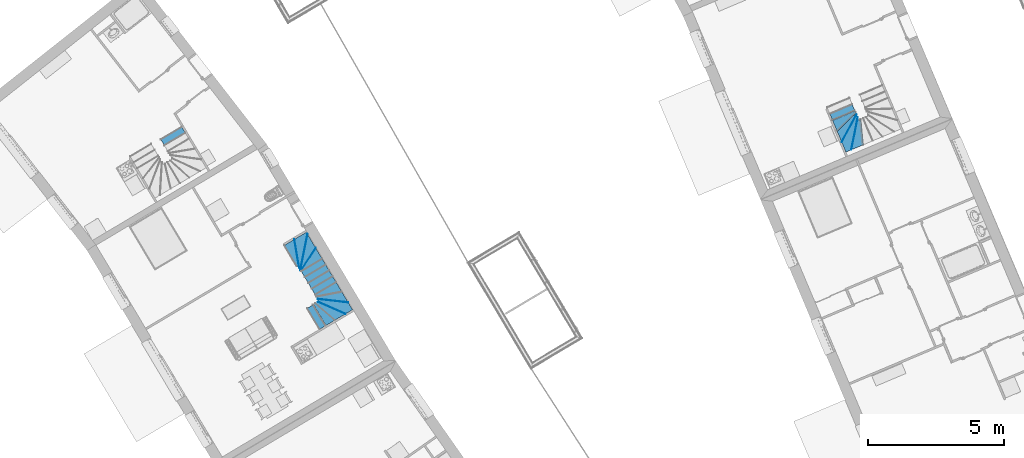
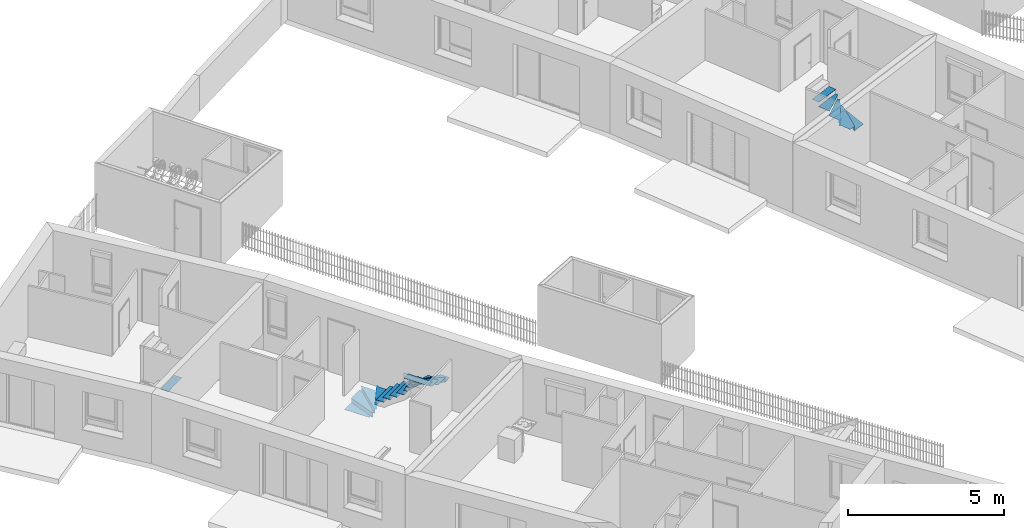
# One storey, part 101 of 195: 33 members, 4 elements without a shape of their own.
"""IFC2X3 building model written with IfcOpenShell, lengths in metres."""

from ifc_helpers import new_model, entity, si_unit, converted_unit, derived_unit, money_unit, direction, frame, origin_with_axes, place, context, subcontext, project, spatial, faceted_brep, material, type_object, element, aggregate, save


model = new_model("IFC2X3")

# Units and contexts
model_context = context("Model", 3, precision=1e-05, world=origin_with_axes(), true_north=direction((0.0, 1.0)))
body_context = subcontext(model_context, "Body", "Model", "MODEL_VIEW")
ifc_project = project(units=[si_unit("LENGTHUNIT", "METRE"), si_unit("AREAUNIT", "SQUARE_METRE"), si_unit("VOLUMEUNIT", "CUBIC_METRE"), converted_unit("PLANEANGLEUNIT", "DEGREE", entity("IfcPlaneAngleMeasure", 0.0174532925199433), si_unit("PLANEANGLEUNIT", "RADIAN"), dimensions=[0, 0, 0, 0, 0, 0, 0]), money_unit("CHF"), converted_unit("TIMEUNIT", "Year", entity("IfcTimeMeasure", 31557600.0), si_unit("TIMEUNIT", "SECOND"), dimensions=[0, 0, 1, 0, 0, 0, 0]), si_unit("MASSUNIT", "GRAM", prefix="KILO"), si_unit("THERMODYNAMICTEMPERATUREUNIT", "DEGREE_CELSIUS"), si_unit("LUMINOUSINTENSITYUNIT", "LUMEN"), si_unit("ENERGYUNIT", "JOULE", prefix="MEGA"), derived_unit("THERMALCONDUCTANCEUNIT", [(si_unit("POWERUNIT", "WATT"), 1), (si_unit("LENGTHUNIT", "METRE"), -1), (si_unit("THERMODYNAMICTEMPERATUREUNIT", "KELVIN"), -1)]), derived_unit("SPECIFICHEATCAPACITYUNIT", [(si_unit("ENERGYUNIT", "JOULE"), 1), (si_unit("MASSUNIT", "GRAM", prefix="KILO"), -1), (si_unit("THERMODYNAMICTEMPERATUREUNIT", "KELVIN"), -1)]), derived_unit("MASSDENSITYUNIT", [(si_unit("MASSUNIT", "GRAM", prefix="KILO"), 1), (si_unit("VOLUMEUNIT", "CUBIC_METRE"), -1)])], contexts=[model_context])

# Site, building, storey
site_placement = place(None, origin_with_axes())
site = spatial("IfcSite", under=ifc_project, at=site_placement, Name="Site", CompositionType="ELEMENT")
building_placement = place(site_placement, origin_with_axes())
building = spatial("IfcBuilding", under=site, at=building_placement, Name="Bâtiment", CompositionType="ELEMENT")
storey_placement = place(building_placement, origin_with_axes())
storey = spatial("IfcBuildingStorey", under=building, at=storey_placement, Name="rdc", CompositionType="ELEMENT", Elevation=0.0)

# Stair, members
stair_1_placement = place(storey_placement, frame((9545.76443159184, -1047.004357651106, 57.0), z_axis=(0.0, 0.0, 1.0), x_axis=(0.8590868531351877, 0.511829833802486, 0.0)))
stair_1 = element("IfcStair", 1, at=stair_1_placement, inside=storey, Name="ESC-014", ShapeType="NOTDEFINED")
ifc_material = material(Name="Lame d'air 275581351")
member_type = type_object("IfcMemberType", Name="IfcMember", PredefinedType="NOTDEFINED")
member_1_placement = place(stair_1_placement, frame((0.1769173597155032, -0.4722981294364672, 0.3500000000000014), z_axis=(0.0, 0.0, 1.0), x_axis=(-0.3582498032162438, -0.9336257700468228, 0.0)))
member_1 = element("IfcMember", 2, at=member_1_placement, type_object=member_type, material=ifc_material, Name="C-MARCHE-232", context=body_context, shape_type="Brep", body=[
    faceted_brep([(0.5329284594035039, 0.01500000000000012, 0.0), (0.558989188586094, 0.02500000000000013, 0.0), (-0.5303974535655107, 0.02500000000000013, 0.0), (-0.5265602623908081, 0.01500000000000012, 0.0), (0.5329284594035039, 0.01500000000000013, -0.17), (0.558989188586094, 0.02500000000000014, -0.17), (-0.5303974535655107, 0.02500000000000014, -0.17), (-0.5265602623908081, 0.01500000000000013, -0.17)], [[[0, 1, 2, 3]], [[0, 4, 5, 1]], [[1, 5, 6, 2]], [[3, 2, 6, 7]], [[4, 0, 3, 7]], [[5, 4, 7, 6]]]),
])
member_2_placement = place(stair_1_placement, frame((0.3685356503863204, -0.627833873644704, 0.5300000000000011), z_axis=(0.0, 0.0, 1.0), x_axis=(-0.670520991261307, -0.741890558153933, 0.0)))
member_2 = element("IfcMember", 3, at=member_2_placement, type_object=member_type, material=ifc_material, Name="C-MARCHE-233", context=body_context, shape_type="Brep", body=[
    faceted_brep([(0.5662220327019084, 0.01500000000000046, 0.0), (0.5772864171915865, 0.02500000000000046, 0.0), (-0.7649530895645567, 0.02500000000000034, 0.0), (-0.7760174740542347, 0.01500000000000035, 0.0), (0.5662220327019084, 0.01500000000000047, -0.17), (0.5772864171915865, 0.02500000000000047, -0.17), (-0.7649530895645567, 0.02500000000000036, -0.17), (-0.7760174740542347, 0.01500000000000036, -0.17)], [[[0, 1, 2, 3]], [[0, 4, 5, 1]], [[1, 5, 6, 2]], [[3, 2, 6, 7]], [[4, 0, 3, 7]], [[5, 4, 7, 6]]]),
])
member_3_placement = place(stair_1_placement, frame((0.4493040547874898, -0.8610406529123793, 0.7100000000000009), z_axis=(0.0, 0.0, 1.0), x_axis=(-0.9004360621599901, -0.4349883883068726, 0.0)))
member_3 = element("IfcMember", 4, at=member_3_placement, type_object=member_type, material=ifc_material, Name="C-MARCHE-234", context=body_context, shape_type="Brep", body=[
    faceted_brep([(0.5062309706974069, 0.01500000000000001, 0.0), (0.5110618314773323, 0.02500000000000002, 0.0), (-0.4884537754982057, 0.02500000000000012, 0.0), (-0.4932846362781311, 0.01500000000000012, 0.0), (0.5062309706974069, 0.01500000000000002, -0.17), (0.5110618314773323, 0.02500000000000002, -0.17), (-0.4884537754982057, 0.02500000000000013, -0.17), (-0.4932846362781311, 0.01500000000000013, -0.17)], [[[0, 1, 2, 3]], [[0, 4, 5, 1]], [[1, 5, 6, 2]], [[3, 2, 6, 7]], [[4, 0, 3, 7]], [[5, 4, 7, 6]]]),
])
member_4_placement = place(stair_1_placement, frame((0.4076821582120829, -2.604821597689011, 1.969999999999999), z_axis=(0.0, 0.0, 1.0), x_axis=(-0.7951789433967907, 0.6063748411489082, 0.0)))
member_4 = element("IfcMember", 5, at=member_4_placement, type_object=member_type, material=ifc_material, Name="C-MARCHE-241", context=body_context, shape_type="Brep", body=[
    faceted_brep([(0.5012531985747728, 0.01500000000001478, 0.0), (0.4936275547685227, 0.0250000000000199, 0.0), (-0.6381933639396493, 0.02499999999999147, 0.0), (-0.6305677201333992, 0.01500000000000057, 0.0), (0.5012531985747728, 0.01500000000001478, -0.1700000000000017), (0.4936275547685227, 0.0250000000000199, -0.1700000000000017), (-0.6381933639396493, 0.02499999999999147, -0.1700000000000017), (-0.6305677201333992, 0.01500000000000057, -0.1700000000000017)], [[[0, 1, 2, 3]], [[0, 4, 5, 1]], [[1, 5, 6, 2]], [[3, 2, 6, 7]], [[4, 0, 3, 7]], [[5, 4, 7, 6]]]),
])
member_5_placement = place(stair_1_placement, frame((0.2458897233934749, -2.791187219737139, 2.149999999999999), z_axis=(0.0, 0.0, 1.0), x_axis=(-0.5811775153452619, 0.8137768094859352, 0.0)))
member_5 = element("IfcMember", 6, at=member_5_placement, type_object=member_type, material=ifc_material, Name="C-MARCHE-242", context=body_context, shape_type="Brep", body=[
    faceted_brep([(0.4738370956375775, 0.01499999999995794, 0.0), (0.4809788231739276, 0.02500000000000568, 0.0), (-0.6249753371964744, 0.02499999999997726, 0.0), (-0.6321170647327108, 0.01500000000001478, 0.0), (0.4738370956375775, 0.01499999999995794, -0.1700000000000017), (0.4809788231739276, 0.02500000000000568, -0.1700000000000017), (-0.6249753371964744, 0.02499999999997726, -0.1700000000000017), (-0.6321170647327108, 0.01500000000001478, -0.1700000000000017)], [[[0, 1, 2, 3]], [[0, 4, 5, 1]], [[1, 5, 6, 2]], [[3, 2, 6, 7]], [[4, 0, 3, 7]], [[5, 4, 7, 6]]]),
])
member_6_placement = place(stair_1_placement, frame((0.1769173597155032, -0.4722981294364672, 0.3599999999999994), z_axis=(0.0, 0.0, 1.0), x_axis=(-0.3582498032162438, -0.9336257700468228, 0.0)))
member_6 = element("IfcMember", 7, at=member_6_placement, type_object=member_type, material=ifc_material, Name="MARCHE-224", context=body_context, shape_type="Brep", body=[
    faceted_brep([(-0.5208044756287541, 0.0, -0.01), (0.4938373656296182, 0.0, -0.01), (0.4938373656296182, 0.0, 0.0), (-0.5208044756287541, 0.0, 0.0), (-0.7130072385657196, 0.5008944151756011, -0.01), (-0.6280249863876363, 0.5335037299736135, -0.01), (0.6240994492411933, 0.04998405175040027, -0.01), (0.6240994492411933, 0.04998405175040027, 0.0), (-0.6280249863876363, 0.5335037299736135, 0.0), (-0.7130072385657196, 0.5008944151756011, 0.0)], [[[0, 1, 2, 3]], [[0, 4, 5, 6, 1]], [[1, 6, 7, 2]], [[3, 2, 7, 8, 9]], [[4, 0, 3, 9]], [[5, 4, 9, 8]], [[6, 5, 8, 7]]]),
])
member_7_placement = place(stair_1_placement, frame((0.3685356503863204, -0.627833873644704, 0.5399999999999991), z_axis=(0.0, 0.0, 1.0), x_axis=(-0.670520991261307, -0.741890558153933, 0.0)))
member_7 = element("IfcMember", 8, at=member_7_placement, type_object=member_type, material=ifc_material, Name="MARCHE-225", context=body_context, shape_type="Brep", body=[
    faceted_brep([(-0.7926140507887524, 0.0, -0.01), (0.5496254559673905, 0.0, -0.01), (0.5496254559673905, 0.0, 0.0), (-0.7926140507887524, 0.0, 0.0), (-0.3242743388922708, 0.4232858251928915, -0.01), (0.6017519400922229, 0.0471119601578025, -0.01), (0.6017519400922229, 0.0471119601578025, 0.0), (-0.3242743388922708, 0.4232858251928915, 0.0)], [[[0, 1, 2, 3]], [[0, 4, 5, 1]], [[1, 5, 6, 2]], [[3, 2, 6, 7]], [[4, 0, 3, 7]], [[5, 4, 7, 6]]]),
])
member_8_placement = place(stair_1_placement, frame((0.4493040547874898, -0.8610406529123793, 0.7199999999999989), z_axis=(0.0, 0.0, 1.0), x_axis=(-0.9004360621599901, -0.4349883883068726, 0.0)))
member_8 = element("IfcMember", 9, at=member_8_placement, type_object=member_type, material=ifc_material, Name="MARCHE-226", context=body_context, shape_type="Brep", body=[
    faceted_brep([(-0.5005309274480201, 0.0, -0.01), (0.4989846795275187, 0.0, -0.01), (0.4989846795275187, 0.0, 0.0), (-0.5005309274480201, 0.0, 0.0), (-0.2862069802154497, 0.4436558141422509, -0.01), (0.5241855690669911, 0.05216645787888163, -0.01), (0.5241855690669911, 0.05216645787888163, 0.0), (-0.2862069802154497, 0.4436558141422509, 0.0)], [[[0, 1, 2, 3]], [[0, 4, 5, 1]], [[1, 5, 6, 2]], [[3, 2, 6, 7]], [[4, 0, 3, 7]], [[5, 4, 7, 6]]]),
])
member_9_placement = place(stair_1_placement, frame((0.4500002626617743, -1.111027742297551, 0.8999999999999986), z_axis=(0.0, 0.0, 1.0), x_axis=(-0.9999999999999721, -2.364139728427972e-07, 0.0)))
member_9 = element("IfcMember", 10, at=member_9_placement, type_object=member_type, material=ifc_material, Name="MARCHE-227", context=body_context, shape_type="Brep", body=[
    faceted_brep([(-0.4500000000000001, 0.0, -0.01), (0.45, 0.0, -0.01), (0.45, 0.0, 0.0), (-0.4500000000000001, 0.0, 0.0), (-0.4500000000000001, 0.2749999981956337, -0.01), (0.45, 0.2750000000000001, -0.01), (0.45, 0.2750000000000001, 0.0), (-0.4500000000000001, 0.2749999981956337, 0.0)], [[[0, 1, 2, 3]], [[0, 4, 5, 1]], [[1, 5, 6, 2]], [[3, 2, 6, 7]], [[4, 0, 3, 7]], [[5, 4, 7, 6]]]),
])
member_10_placement = place(stair_1_placement, frame((0.4500003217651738, -1.361027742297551, 1.079999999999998), z_axis=(0.0, 0.0, 1.0), x_axis=(-0.9999999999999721, -2.364139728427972e-07, 0.0)))
member_10 = element("IfcMember", 11, at=member_10_placement, type_object=member_type, material=ifc_material, Name="MARCHE-228", context=body_context, shape_type="Brep", body=[
    faceted_brep([(-0.4500000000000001, 0.0, -0.01), (0.45, 0.0, -0.01), (0.45, 0.0, 0.0), (-0.4500000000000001, 0.0, 0.0), (-0.4500000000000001, 0.2749999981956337, -0.01), (0.45, 0.2750000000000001, -0.01), (0.45, 0.2750000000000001, 0.0), (-0.4500000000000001, 0.2749999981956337, 0.0)], [[[0, 1, 2, 3]], [[0, 4, 5, 1]], [[1, 5, 6, 2]], [[3, 2, 6, 7]], [[4, 0, 3, 7]], [[5, 4, 7, 6]]]),
])
member_11_placement = place(stair_1_placement, frame((0.4500004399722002, -1.861027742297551, 1.439999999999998), z_axis=(0.0, 0.0, 1.0), x_axis=(-0.9999999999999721, -2.364139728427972e-07, 0.0)))
member_11 = element("IfcMember", 12, at=member_11_placement, type_object=member_type, material=ifc_material, Name="MARCHE-230", context=body_context, shape_type="Brep", body=[
    faceted_brep([(-0.4500000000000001, 0.0, -0.01), (0.45, 0.0, -0.01), (0.45, 0.0, 0.0), (-0.4500000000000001, 0.0, 0.0), (-0.4500000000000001, 0.2749999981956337, -0.01), (0.45, 0.2750000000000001, -0.01), (0.45, 0.2750000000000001, 0.0), (-0.4500000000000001, 0.2749999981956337, 0.0)], [[[0, 1, 2, 3]], [[0, 4, 5, 1]], [[1, 5, 6, 2]], [[3, 2, 6, 7]], [[4, 0, 3, 7]], [[5, 4, 7, 6]]]),
])
member_12_placement = place(stair_1_placement, frame((-0.068175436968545, -0.436061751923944, 0.1799999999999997), z_axis=(0.0, 0.0, 1.0), x_axis=(2.365001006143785e-07, -0.999999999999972, 0.0)))
member_12 = element("IfcMember", 13, at=member_12_placement, type_object=member_type, material=ifc_material, Name="MARCHE-223", context=body_context, shape_type="Brep", body=[
    faceted_brep([(-0.45, 0.0, -0.01), (0.4500000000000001, 0.0, -0.01), (0.4500000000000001, 0.0, 0.0), (-0.45, 0.0, 0.0), (-0.45, 0.4584483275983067, -0.01), (0.5670793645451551, 0.06817554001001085, -0.01), (0.4500000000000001, 0.06817554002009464, -0.01), (0.4500000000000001, 0.06817554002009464, 0.0), (0.5670793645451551, 0.06817554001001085, 0.0), (-0.45, 0.4584483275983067, 0.0)], [[[0, 1, 2, 3]], [[0, 4, 5, 6, 1]], [[1, 6, 7, 2]], [[3, 2, 7, 8, 9]], [[4, 0, 3, 9]], [[5, 4, 9, 8]], [[6, 5, 8, 7]]]),
])
member_13_placement = place(stair_1_placement, frame((0.450000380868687, -1.611027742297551, 1.259999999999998), z_axis=(0.0, 0.0, 1.0), x_axis=(-0.9999999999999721, -2.364139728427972e-07, 0.0)))
member_13 = element("IfcMember", 14, at=member_13_placement, type_object=member_type, material=ifc_material, Name="MARCHE-229", context=body_context, shape_type="Brep", body=[
    faceted_brep([(-0.4500000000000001, 0.0, -0.01), (0.45, 0.0, -0.01), (0.45, 0.0, 0.0), (-0.4500000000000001, 0.0, 0.0), (-0.4500000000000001, 0.2749999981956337, -0.01), (0.45, 0.2750000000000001, -0.01), (0.45, 0.2750000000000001, 0.0), (-0.4500000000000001, 0.2749999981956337, 0.0)], [[[0, 1, 2, 3]], [[0, 4, 5, 1]], [[1, 5, 6, 2]], [[3, 2, 6, 7]], [[4, 0, 3, 7]], [[5, 4, 7, 6]]]),
])
member_14_placement = place(stair_1_placement, frame((0.4500005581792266, -2.361027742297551, 1.799999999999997), z_axis=(0.0, 0.0, 1.0), x_axis=(-0.9401689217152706, 0.3407086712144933, 0.0)))
member_14 = element("IfcMember", 15, at=member_14_placement, type_object=member_type, material=ifc_material, Name="MARCHE-232", context=body_context, shape_type="Brep", body=[
    faceted_brep([(-0.4786374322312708, 0.0, -0.01), (0.4786374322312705, 0.0, -0.01), (0.4786374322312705, 0.0, 0.0), (-0.4786374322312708, 0.0, 0.0), (-0.6447608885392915, 0.4584092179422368, -0.01), (0.4352222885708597, 0.1198018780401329, -0.01), (0.4352222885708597, 0.1198018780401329, 0.0), (-0.6447608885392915, 0.4584092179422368, 0.0)], [[[0, 1, 2, 3]], [[0, 4, 5, 1]], [[1, 5, 6, 2]], [[3, 2, 6, 7]], [[4, 0, 3, 7]], [[5, 4, 7, 6]]]),
])
member_15_placement = place(stair_1_placement, frame((0.4076821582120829, -2.604821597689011, 1.979999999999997), z_axis=(0.0, 0.0, 1.0), x_axis=(-0.7951789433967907, 0.6063748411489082, 0.0)))
member_15 = element("IfcMember", 16, at=member_15_placement, type_object=member_type, material=ifc_material, Name="MARCHE-233", context=body_context, shape_type="Brep", body=[
    faceted_brep([(-0.6191292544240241, 0.0, -0.00999999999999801), (0.5126916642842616, 0.0, -0.00999999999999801), (0.5126916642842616, 0.0, 0.0), (-0.6191292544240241, 0.0, 0.0), (-0.8216955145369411, 0.265638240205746, -0.00999999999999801), (-0.5742089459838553, 0.4543626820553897, -0.00999999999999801), (0.4826341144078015, 0.1284526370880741, -0.00999999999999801), (0.4397029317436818, 0.0957148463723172, -0.00999999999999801), (0.4397029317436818, 0.0957148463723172, 0.0), (0.4826341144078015, 0.1284526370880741, 0.0), (-0.5742089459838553, 0.4543626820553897, 0.0), (-0.8216955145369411, 0.265638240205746, 0.0)], [[[0, 1, 2, 3]], [[0, 4, 5, 6, 7, 1]], [[1, 7, 8, 2]], [[3, 2, 8, 9, 10, 11]], [[4, 0, 3, 11]], [[5, 4, 11, 10]], [[6, 5, 10, 9]], [[7, 6, 9, 8]]]),
])
member_16_placement = place(stair_1_placement, frame((0.2458897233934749, -2.791187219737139, 2.159999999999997), z_axis=(0.0, 0.0, 1.0), x_axis=(-0.5811775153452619, 0.8137768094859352, 0.0)))
member_16 = element("IfcMember", 17, at=member_16_placement, type_object=member_type, material=ifc_material, Name="MARCHE-234", context=body_context, shape_type="Brep", body=[
    faceted_brep([(-0.6428296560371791, 0.0, -0.00999999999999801), (0.4631245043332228, 0.0, -0.00999999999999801), (0.4631245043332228, 0.0, 0.0), (-0.6428296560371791, 0.0, 0.0), (-0.3602121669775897, 0.3957270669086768, -0.00999999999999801), (0.5458069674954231, 0.1157737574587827, -0.00999999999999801), (0.5458069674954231, 0.1157737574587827, 0.0), (-0.3602121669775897, 0.3957270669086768, 0.0)], [[[0, 1, 2, 3]], [[0, 4, 5, 1]], [[1, 5, 6, 2]], [[3, 2, 6, 7]], [[4, 0, 3, 7]], [[5, 4, 7, 6]]]),
])
member_17_placement = place(stair_1_placement, frame((0.01013755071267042, -2.864193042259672, 2.340000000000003), z_axis=(0.0, 0.0, 1.0), x_axis=(-0.315030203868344, 0.94908164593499, 0.0)))
member_17 = element("IfcMember", 18, at=member_17_placement, type_object=member_type, material=ifc_material, Name="MARCHE-235", context=body_context, shape_type="Brep", body=[
    faceted_brep([(-0.4742628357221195, 0.0, -0.01), (0.4740222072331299, 0.0, -0.01), (0.4740222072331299, 0.0, 0.0), (-0.4742628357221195, 0.0, 0.0), (-0.34056217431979, 0.4027961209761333, -0.01), (0.5136113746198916, 0.1192691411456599, -0.01), (0.5136113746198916, 0.1192691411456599, 0.0), (-0.34056217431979, 0.4027961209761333, 0.0)], [[[0, 1, 2, 3]], [[0, 4, 5, 1]], [[1, 5, 6, 2]], [[3, 2, 6, 7]], [[4, 0, 3, 7]], [[5, 4, 7, 6]]]),
])
member_18_placement = place(stair_1_placement, frame((0.4500004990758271, -2.111027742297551, 1.619999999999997), z_axis=(0.0, 0.0, 1.0), x_axis=(-0.9999999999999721, -2.364139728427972e-07, 0.0)))
member_18 = element("IfcMember", 19, at=member_18_placement, type_object=member_type, material=ifc_material, Name="MARCHE-231", context=body_context, shape_type="Brep", body=[
    faceted_brep([(-0.45, 0.0, -0.01), (0.4500000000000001, 0.0, -0.01), (0.4500000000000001, 0.0, 0.0), (-0.45, 0.0, 0.0), (-0.45, 0.4396669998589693, -0.01), (0.4500000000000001, 0.1135149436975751, -0.01), (0.4500000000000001, 0.1135149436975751, 0.0), (-0.45, 0.4396669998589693, 0.0)], [[[0, 1, 2, 3]], [[0, 4, 5, 1]], [[1, 5, 6, 2]], [[3, 2, 6, 7]], [[4, 0, 3, 7]], [[5, 4, 7, 6]]]),
])
member_19_placement = place(stair_1_placement, frame((-0.2398615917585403, -2.864307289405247, 2.520000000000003), z_axis=(0.0, 0.0, 1.0), x_axis=(-2.363824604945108e-07, 0.9999999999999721, 0.0)))
member_19 = element("IfcMember", 20, at=member_19_placement, type_object=member_type, material=ifc_material, Name="MARCHE-236", context=body_context, shape_type="Brep", body=[
    faceted_brep([(-0.4499999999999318, 0.0, -0.00999999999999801), (0.4500000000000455, 0.0, -0.00999999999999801), (0.4500000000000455, 0.0, 0.0), (-0.4499999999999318, 0.0, 0.0), (-0.4500000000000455, 0.25, -0.00999999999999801), (-0.4499999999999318, 0.2749999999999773, -0.00999999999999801), (0.4500000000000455, 0.2749999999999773, -0.00999999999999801), (0.4500000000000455, 0.2499999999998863, -0.00999999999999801), (0.4500000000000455, 0.2499999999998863, 0.0), (0.4500000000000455, 0.2749999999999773, 0.0), (-0.4499999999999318, 0.2749999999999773, 0.0), (-0.4500000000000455, 0.25, 0.0)], [[[0, 1, 2, 3]], [[0, 4, 5, 6, 7, 1]], [[1, 7, 8, 2]], [[3, 2, 8, 9, 10, 11]], [[4, 0, 3, 11]], [[5, 4, 11, 10]], [[6, 5, 10, 9]], [[7, 6, 9, 8]]]),
])
aggregate(stair_1, [member_1, member_2, member_3, member_4, member_5, member_6, member_7, member_8, member_9, member_10, member_11, member_12, member_13, member_14, member_15, member_16, member_17, member_18, member_19])

stair_2_placement = place(storey_placement, frame((9568.089270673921, -1041.901953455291, 57.0), z_axis=(0.0, 0.0, 1.0), x_axis=(0.3885666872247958, -0.9214206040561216, 0.0)))
stair_2 = element("IfcStair", 21, at=stair_2_placement, inside=storey, Name="ESC-014", ShapeType="NOTDEFINED")
member_20_placement = place(stair_2_placement, frame((0.3566547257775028, -1.568489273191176, 1.789999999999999), z_axis=(0.0, 0.0, 1.0), x_axis=(-0.8264540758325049, 0.5630041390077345, 0.0)))
member_20 = element("IfcMember", 22, at=member_20_placement, type_object=member_type, material=ifc_material, Name="C-MARCHE-240", context=body_context, shape_type="Brep", body=[
    faceted_brep([(0.5380235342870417, 0.0149999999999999, 0.0), (0.5527028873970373, 0.0249999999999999, 0.0), (-0.6744728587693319, 0.0249999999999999, 0.0), (-0.6676605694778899, 0.0149999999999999, 0.0), (0.5380235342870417, 0.01499999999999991, -0.1700000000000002), (0.5527028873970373, 0.02499999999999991, -0.1700000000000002), (-0.6744728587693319, 0.02499999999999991, -0.1700000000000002), (-0.6676605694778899, 0.01499999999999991, -0.1700000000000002)], [[[0, 1, 2, 3]], [[0, 4, 5, 1]], [[1, 5, 6, 2]], [[3, 2, 6, 7]], [[4, 0, 3, 7]], [[5, 4, 7, 6]]]),
])
member_21_placement = place(stair_2_placement, frame((0.456191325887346, -1.337050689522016, 1.619999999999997), z_axis=(0.0, 0.0, 1.0), x_axis=(-0.954223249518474, 0.299095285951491, 0.0)))
member_21 = element("IfcMember", 23, at=member_21_placement, type_object=member_type, material=ifc_material, Name="MARCHE-231", context=body_context, shape_type="Brep", body=[
    faceted_brep([(-0.465099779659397, 0.0, -0.00999999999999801), (0.4780758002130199, 0.0, -0.00999999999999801), (0.4780758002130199, 0.0, 0.0), (-0.465099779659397, 0.0, 0.0), (-0.6124706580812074, 0.4701665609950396, -0.00999999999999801), (0.5619531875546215, 0.1142326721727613, -0.00999999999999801), (0.4529768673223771, 0.08007470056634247, -0.00999999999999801), (0.4529768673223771, 0.08007470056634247, 0.0), (0.5619531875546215, 0.1142326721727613, 0.0), (-0.6124706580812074, 0.4701665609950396, 0.0)], [[[0, 1, 2, 3]], [[0, 4, 5, 6, 1]], [[1, 6, 7, 2]], [[3, 2, 7, 8, 9]], [[4, 0, 3, 9]], [[5, 4, 9, 8]], [[6, 5, 8, 7]]]),
])
member_22_placement = place(stair_2_placement, frame((0.1501363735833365, -1.712785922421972, 1.969999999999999), z_axis=(0.0, 0.0, 1.0), x_axis=(-0.6269331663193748, 0.7790730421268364, 0.0)))
member_22 = element("IfcMember", 24, at=member_22_placement, type_object=member_type, material=ifc_material, Name="C-MARCHE-241", context=body_context, shape_type="Brep", body=[
    faceted_brep([(0.5701818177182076, 0.01499999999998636, 0.0), (0.5782289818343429, 0.02499999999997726, 0.0), (-0.5769898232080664, 0.02499999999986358, 0.0), (-0.5850369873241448, 0.01499999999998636, 0.0), (0.5701818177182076, 0.01499999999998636, -0.1700000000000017), (0.5782289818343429, 0.02499999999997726, -0.1700000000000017), (-0.5769898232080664, 0.02499999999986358, -0.1700000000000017), (-0.5850369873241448, 0.01499999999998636, -0.1700000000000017)], [[[0, 1, 2, 3]], [[0, 4, 5, 1]], [[1, 5, 6, 2]], [[3, 2, 6, 7]], [[4, 0, 3, 7]], [[5, 4, 7, 6]]]),
])
member_23_placement = place(stair_2_placement, frame((0.3566547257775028, -1.568489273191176, 1.799999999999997), z_axis=(0.0, 0.0, 1.0), x_axis=(-0.8264540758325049, 0.5630041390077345, 0.0)))
member_23 = element("IfcMember", 25, at=member_23_placement, type_object=member_type, material=ifc_material, Name="MARCHE-232", context=body_context, shape_type="Brep", body=[
    faceted_brep([(-0.6574421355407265, 0.0, -0.01), (0.5160045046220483, 0.0, -0.01), (0.5160045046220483, 0.0, 0.0), (-0.6574421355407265, 0.0, 0.0), (-0.7921941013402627, 0.1978071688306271, -0.01), (-0.4553257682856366, 0.4272916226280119, -0.01), (0.6499330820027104, 0.09123602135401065, -0.01), (0.6499330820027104, 0.09123602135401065, 0.0), (-0.4553257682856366, 0.4272916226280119, 0.0), (-0.7921941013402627, 0.1978071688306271, 0.0)], [[[0, 1, 2, 3]], [[0, 4, 5, 6, 1]], [[1, 6, 7, 2]], [[3, 2, 7, 8, 9]], [[4, 0, 3, 9]], [[5, 4, 9, 8]], [[6, 5, 8, 7]]]),
])
member_24_placement = place(stair_2_placement, frame((0.1501363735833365, -1.712785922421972, 1.979999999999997), z_axis=(0.0, 0.0, 1.0), x_axis=(-0.6269331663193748, 0.7790730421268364, 0.0)))
member_24 = element("IfcMember", 26, at=member_24_placement, type_object=member_type, material=ifc_material, Name="MARCHE-233", context=body_context, shape_type="Brep", body=[
    faceted_brep([(-0.5971077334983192, 0.0, -0.00999999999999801), (0.55811107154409, 0.0, -0.00999999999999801), (0.55811107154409, 0.0, 0.0), (-0.5971077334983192, 0.0, 0.0), (-0.2946838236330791, 0.3758142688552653, -0.00999999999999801), (0.625995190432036, 0.08435781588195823, -0.00999999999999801), (0.625995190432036, 0.08435781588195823, 0.0), (-0.2946838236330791, 0.3758142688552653, 0.0)], [[[0, 1, 2, 3]], [[0, 4, 5, 1]], [[1, 5, 6, 2]], [[3, 2, 6, 7]], [[4, 0, 3, 7]], [[5, 4, 7, 6]]]),
])
member_25_placement = place(stair_2_placement, frame((-0.102256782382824, -1.737976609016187, 2.159999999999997), z_axis=(0.0, 0.0, 1.0), x_axis=(-0.3625707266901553, 0.9319562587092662, 0.0)))
member_25 = element("IfcMember", 27, at=member_25_placement, type_object=member_type, material=ifc_material, Name="MARCHE-234", context=body_context, shape_type="Brep", body=[
    faceted_brep([(-0.4721251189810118, 0.0, -0.00999999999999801), (0.4935853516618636, 0.0, -0.00999999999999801), (0.4935853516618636, 0.0, 0.0), (-0.4721251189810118, 0.0, 0.0), (-0.3084702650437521, 0.420660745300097, -0.00999999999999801), (0.5302904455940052, 0.09434729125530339, -0.00999999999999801), (0.5302904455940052, 0.09434729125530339, 0.0), (-0.3084702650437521, 0.420660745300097, 0.0)], [[[0, 1, 2, 3]], [[0, 4, 5, 1]], [[1, 5, 6, 2]], [[3, 2, 6, 7]], [[4, 0, 3, 7]], [[5, 4, 7, 6]]]),
])
member_26_placement = place(stair_2_placement, frame((-0.3574520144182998, -1.737976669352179, 2.340000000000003), z_axis=(0.0, 0.0, 1.0), x_axis=(-2.36430376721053e-07, 0.9999999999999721, 0.0)))
member_26 = element("IfcMember", 28, at=member_26_placement, type_object=member_type, material=ifc_material, Name="MARCHE-235", context=body_context, shape_type="Brep", body=[
    faceted_brep([(-0.4399999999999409, 0.0, -0.00999999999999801), (0.4600000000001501, 0.0, -0.00999999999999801), (0.4600000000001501, 0.0, 0.0), (-0.4399999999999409, 0.0, 0.0), (-0.4399999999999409, 0.280195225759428, -0.00999999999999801), (0.4600000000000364, 0.2801952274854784, -0.00999999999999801), (0.4600000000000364, 0.2801952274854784, 0.0), (-0.4399999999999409, 0.280195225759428, 0.0)], [[[0, 1, 2, 3]], [[0, 4, 5, 1]], [[1, 5, 6, 2]], [[3, 2, 6, 7]], [[4, 0, 3, 7]], [[5, 4, 7, 6]]]),
])
aggregate(stair_2, [member_20, member_21, member_22, member_23, member_24, member_25, member_26])

# Stair, member
stair_3_placement = place(storey_placement, frame((9542.358293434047, -1043.385861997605, 57.0), z_axis=(0.0, 0.0, 1.0), x_axis=(0.5118296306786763, -0.8590869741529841, 0.0)))
stair_3 = element("IfcStair", 29, at=stair_3_placement, inside=storey, Name="ESC-014", ShapeType="NOTDEFINED")
member_27_placement = place(stair_3_placement, frame((-0.8678427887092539, -0.426061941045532, 0.1799999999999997), z_axis=(0.0, 0.0, 1.0), x_axis=(2.365009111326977e-07, -0.999999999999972, 0.0)))
member_27 = element("IfcMember", 30, at=member_27_placement, type_object=member_type, material=ifc_material, Name="MARCHE-223", context=body_context, shape_type="Brep", body=[
    faceted_brep([(-0.44, 0.0, -0.01), (0.4600000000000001, 0.0, -0.01), (0.4600000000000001, 0.0, 0.0), (-0.44, 0.0, 0.0), (-0.4399999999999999, 0.280195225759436, -0.01), (0.4600000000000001, 0.2801952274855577, -0.01), (0.4600000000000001, 0.2801952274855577, 0.0), (-0.4399999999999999, 0.280195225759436, 0.0)], [[[0, 1, 2, 3]], [[0, 4, 5, 1]], [[1, 5, 6, 2]], [[3, 2, 6, 7]], [[4, 0, 3, 7]], [[5, 4, 7, 6]]]),
])
aggregate(stair_3, [member_27])

# Stair, members
stair_4_placement = place(storey_placement, frame((9568.089270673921, -1041.901953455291, 57.0), z_axis=(0.0, 0.0, 1.0), x_axis=(0.3885666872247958, -0.9214206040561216, 0.0)))
stair_4 = element("IfcStair", 31, at=stair_4_placement, inside=storey, Name="ESC-014", ShapeType="NOTDEFINED")
member_28_placement = place(stair_4_placement, frame((0.3566547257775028, -1.568489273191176, 1.789999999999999), z_axis=(0.0, 0.0, 1.0), x_axis=(-0.8264540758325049, 0.5630041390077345, 0.0)))
member_28 = element("IfcMember", 32, at=member_28_placement, type_object=member_type, material=ifc_material, Name="C-MARCHE-240", context=body_context, shape_type="Brep", body=[
    faceted_brep([(0.5380235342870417, 0.0149999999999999, 0.0), (0.5527028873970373, 0.0249999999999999, 0.0), (-0.6744728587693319, 0.0249999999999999, 0.0), (-0.6676605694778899, 0.0149999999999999, 0.0), (0.5380235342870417, 0.01499999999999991, -0.1700000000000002), (0.5527028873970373, 0.02499999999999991, -0.1700000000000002), (-0.6744728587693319, 0.02499999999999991, -0.1700000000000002), (-0.6676605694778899, 0.01499999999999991, -0.1700000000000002)], [[[0, 1, 2, 3]], [[0, 4, 5, 1]], [[1, 5, 6, 2]], [[3, 2, 6, 7]], [[4, 0, 3, 7]], [[5, 4, 7, 6]]]),
])
member_29_placement = place(stair_4_placement, frame((0.1501363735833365, -1.712785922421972, 1.969999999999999), z_axis=(0.0, 0.0, 1.0), x_axis=(-0.6269331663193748, 0.7790730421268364, 0.0)))
member_29 = element("IfcMember", 33, at=member_29_placement, type_object=member_type, material=ifc_material, Name="C-MARCHE-241", context=body_context, shape_type="Brep", body=[
    faceted_brep([(0.5701818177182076, 0.01499999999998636, 0.0), (0.5782289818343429, 0.02499999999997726, 0.0), (-0.5769898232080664, 0.02499999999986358, 0.0), (-0.5850369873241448, 0.01499999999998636, 0.0), (0.5701818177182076, 0.01499999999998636, -0.1700000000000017), (0.5782289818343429, 0.02499999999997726, -0.1700000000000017), (-0.5769898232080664, 0.02499999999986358, -0.1700000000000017), (-0.5850369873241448, 0.01499999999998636, -0.1700000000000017)], [[[0, 1, 2, 3]], [[0, 4, 5, 1]], [[1, 5, 6, 2]], [[3, 2, 6, 7]], [[4, 0, 3, 7]], [[5, 4, 7, 6]]]),
])
member_30_placement = place(stair_4_placement, frame((0.456191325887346, -1.337050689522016, 1.619999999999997), z_axis=(0.0, 0.0, 1.0), x_axis=(-0.954223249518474, 0.299095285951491, 0.0)))
member_30 = element("IfcMember", 34, at=member_30_placement, type_object=member_type, material=ifc_material, Name="MARCHE-231", context=body_context, shape_type="Brep", body=[
    faceted_brep([(-0.465099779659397, 0.0, -0.00999999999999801), (0.4780758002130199, 0.0, -0.00999999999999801), (0.4780758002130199, 0.0, 0.0), (-0.465099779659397, 0.0, 0.0), (-0.6124706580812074, 0.4701665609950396, -0.00999999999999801), (0.5619531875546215, 0.1142326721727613, -0.00999999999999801), (0.4529768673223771, 0.08007470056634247, -0.00999999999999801), (0.4529768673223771, 0.08007470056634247, 0.0), (0.5619531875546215, 0.1142326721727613, 0.0), (-0.6124706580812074, 0.4701665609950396, 0.0)], [[[0, 1, 2, 3]], [[0, 4, 5, 6, 1]], [[1, 6, 7, 2]], [[3, 2, 7, 8, 9]], [[4, 0, 3, 9]], [[5, 4, 9, 8]], [[6, 5, 8, 7]]]),
])
member_31_placement = place(stair_4_placement, frame((0.1501363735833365, -1.712785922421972, 1.979999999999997), z_axis=(0.0, 0.0, 1.0), x_axis=(-0.6269331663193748, 0.7790730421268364, 0.0)))
member_31 = element("IfcMember", 35, at=member_31_placement, type_object=member_type, material=ifc_material, Name="MARCHE-233", context=body_context, shape_type="Brep", body=[
    faceted_brep([(-0.5971077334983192, 0.0, -0.00999999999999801), (0.55811107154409, 0.0, -0.00999999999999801), (0.55811107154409, 0.0, 0.0), (-0.5971077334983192, 0.0, 0.0), (-0.2946838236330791, 0.3758142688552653, -0.00999999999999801), (0.625995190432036, 0.08435781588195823, -0.00999999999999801), (0.625995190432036, 0.08435781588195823, 0.0), (-0.2946838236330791, 0.3758142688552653, 0.0)], [[[0, 1, 2, 3]], [[0, 4, 5, 1]], [[1, 5, 6, 2]], [[3, 2, 6, 7]], [[4, 0, 3, 7]], [[5, 4, 7, 6]]]),
])
member_32_placement = place(stair_4_placement, frame((-0.102256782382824, -1.737976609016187, 2.159999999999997), z_axis=(0.0, 0.0, 1.0), x_axis=(-0.3625707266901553, 0.9319562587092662, 0.0)))
member_32 = element("IfcMember", 36, at=member_32_placement, type_object=member_type, material=ifc_material, Name="MARCHE-234", context=body_context, shape_type="Brep", body=[
    faceted_brep([(-0.4721251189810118, 0.0, -0.00999999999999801), (0.4935853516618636, 0.0, -0.00999999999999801), (0.4935853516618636, 0.0, 0.0), (-0.4721251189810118, 0.0, 0.0), (-0.3084702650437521, 0.420660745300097, -0.00999999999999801), (0.5302904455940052, 0.09434729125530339, -0.00999999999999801), (0.5302904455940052, 0.09434729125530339, 0.0), (-0.3084702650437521, 0.420660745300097, 0.0)], [[[0, 1, 2, 3]], [[0, 4, 5, 1]], [[1, 5, 6, 2]], [[3, 2, 6, 7]], [[4, 0, 3, 7]], [[5, 4, 7, 6]]]),
])
member_33_placement = place(stair_4_placement, frame((0.3566547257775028, -1.568489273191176, 1.799999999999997), z_axis=(0.0, 0.0, 1.0), x_axis=(-0.8264540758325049, 0.5630041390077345, 0.0)))
member_33 = element("IfcMember", 37, at=member_33_placement, type_object=member_type, material=ifc_material, Name="MARCHE-232", context=body_context, shape_type="Brep", body=[
    faceted_brep([(-0.6574421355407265, 0.0, -0.01), (0.5160045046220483, 0.0, -0.01), (0.5160045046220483, 0.0, 0.0), (-0.6574421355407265, 0.0, 0.0), (-0.7921941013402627, 0.1978071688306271, -0.01), (-0.4553257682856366, 0.4272916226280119, -0.01), (0.6499330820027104, 0.09123602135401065, -0.01), (0.6499330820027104, 0.09123602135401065, 0.0), (-0.4553257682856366, 0.4272916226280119, 0.0), (-0.7921941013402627, 0.1978071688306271, 0.0)], [[[0, 1, 2, 3]], [[0, 4, 5, 6, 1]], [[1, 6, 7, 2]], [[3, 2, 7, 8, 9]], [[4, 0, 3, 9]], [[5, 4, 9, 8]], [[6, 5, 8, 7]]]),
])
aggregate(stair_4, [member_28, member_29, member_30, member_31, member_32, member_33])

save(model, "model.ifc")
